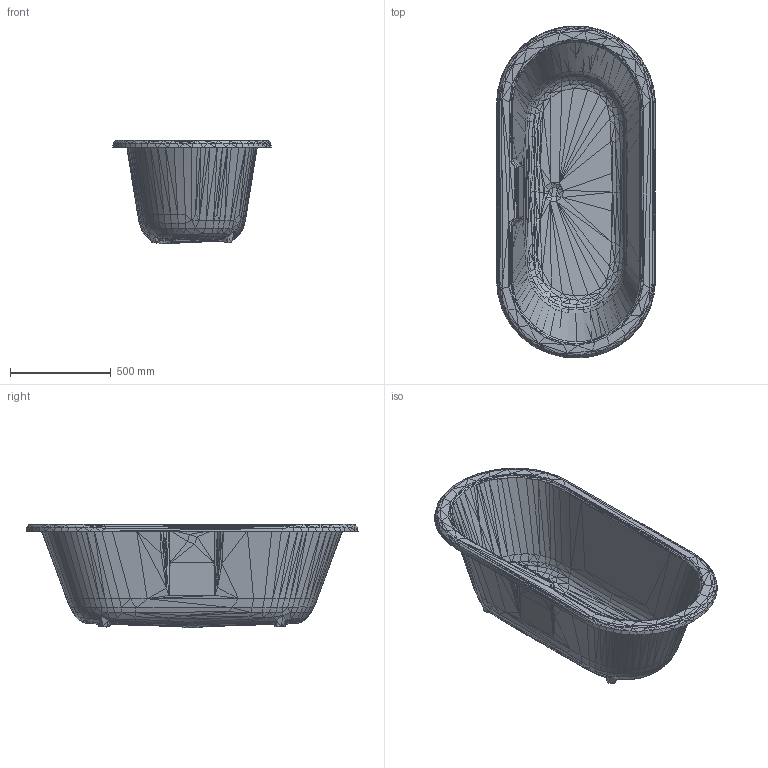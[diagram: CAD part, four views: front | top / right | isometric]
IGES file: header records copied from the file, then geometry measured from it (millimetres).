
Global section: file name: C:\Users\Sam Altman L JackSon\Downloads\Additional 2D and 3D files required for V+A NPD\Cheshire 1650\Cheshire 1650 - 3d igs.igs; native system: Rhinoceros ( Mar  4 2026 ); preprocessor: Trout Lake IGES 012 Mar  4 2026; date: 260508.105730; units: millimetre
Bounding box: 788.92 x 1650 x 514.39 mm (x, y, z)
Surface area: 4880675.9 mm2 (no closed solid volume)
Topology: 0 solids, 0 shells, 2200 faces, 7028 edges, 7028 vertices
Faces by surface type: bspline 2200
